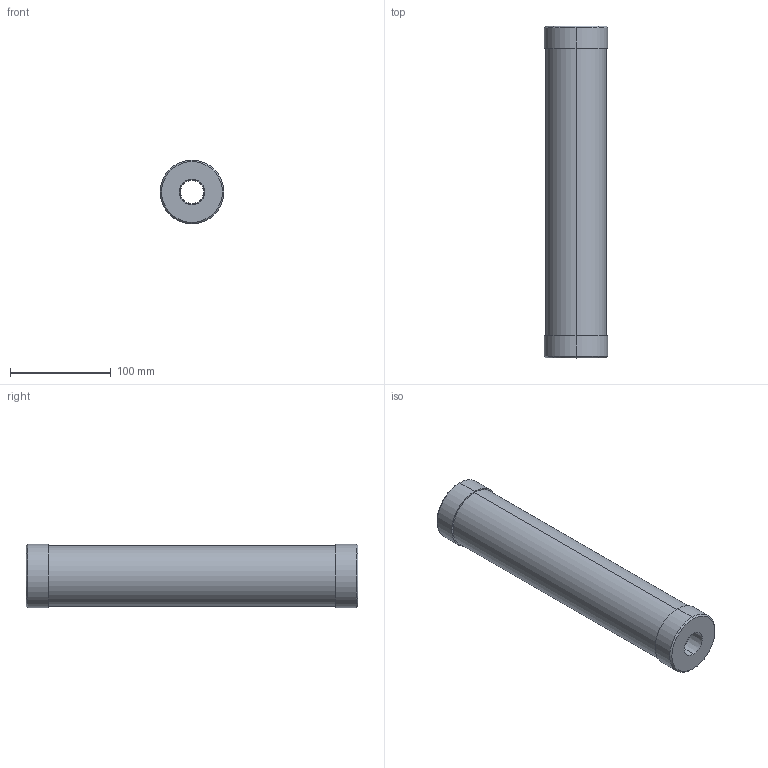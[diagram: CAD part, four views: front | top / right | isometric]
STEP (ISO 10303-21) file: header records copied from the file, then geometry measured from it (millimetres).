
FILE_DESCRIPTION (( 'STEP AP203' ), '1' );
FILE_NAME ('CC0500_P_BSPT.STEP', '2016-03-21T09:40:22', ( '' ), ( '' ), 'SwSTEP 2.0', 'SolidWorks 2014', '' );
FILE_SCHEMA (( 'CONFIG_CONTROL_DESIGN' ));
Length unit declared in the file: inch
Products named in the file (2): CC0500_P_BSPT
Bounding box: 63.5 x 330.2 x 63.5 mm (x, y, z)
Volume: 329182.1 mm3; surface area: 122206.1 mm2
Topology: 1 solids, 1 shells, 28 faces, 56 edges, 36 vertices
Faces by surface type: cylinder 12, cone 8, plane 8
Entity records: 905 total; most frequent: DIRECTION 152, CARTESIAN_POINT 122, ORIENTED_EDGE 112, AXIS2_PLACEMENT_3D 66, EDGE_CURVE 56, EDGE_LOOP 36, VERTEX_POINT 36, CIRCLE 36
